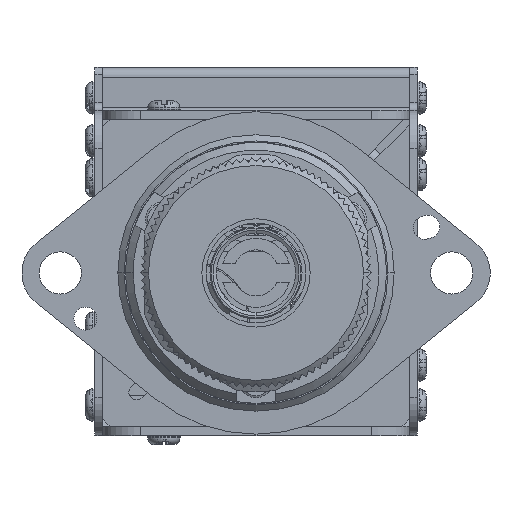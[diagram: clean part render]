
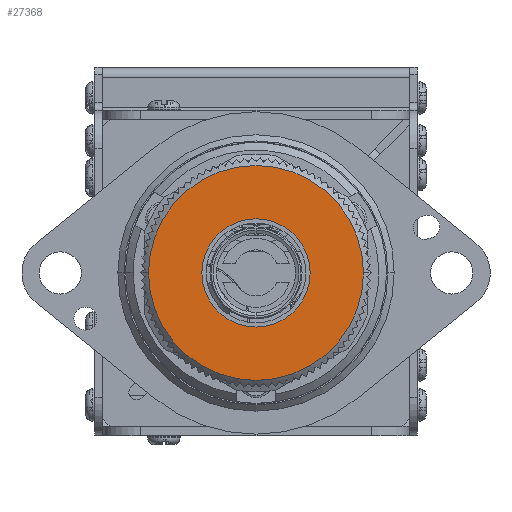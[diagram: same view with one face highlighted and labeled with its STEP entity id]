
A CAD part, front view. The second image highlights one B-rep face of the part: STEP entity #27368.
In plain terms, the highlighted planar face has unit normal (0, -1, 0).
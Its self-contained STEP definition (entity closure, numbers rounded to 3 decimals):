
#1586 = DIRECTION ( 'NONE',  ( 1., 0., 0. ) ) ;
#2747 = DIRECTION ( 'NONE',  ( -1., 0., 0. ) ) ;
#3943 = PLANE ( 'NONE',  #3976 ) ;
#3976 = AXIS2_PLACEMENT_3D ( 'NONE', #10928, #17694, #31432 ) ;
#4468 = ORIENTED_EDGE ( 'NONE', *, *, #32203, .T. ) ;
#4966 = DIRECTION ( 'NONE',  ( 0., -1., 0. ) ) ;
#5480 = DIRECTION ( 'NONE',  ( 0., -1., 0. ) ) ;
#6275 = DIRECTION ( 'NONE',  ( 0., -1., 0. ) ) ;
#7340 = FACE_OUTER_BOUND ( 'NONE', #19807, .T. ) ;
#7892 = CARTESIAN_POINT ( 'NONE',  ( -9.018, -73.576, 0. ) ) ;
#8959 = VERTEX_POINT ( 'NONE', #33232 ) ;
#10928 = CARTESIAN_POINT ( 'NONE',  ( -1.968, -73.576, 15. ) ) ;
#11913 = VERTEX_POINT ( 'NONE', #22285 ) ;
#13005 = DIRECTION ( 'NONE',  ( 1., 0., 0. ) ) ;
#13367 = AXIS2_PLACEMENT_3D ( 'NONE', #22078, #4966, #1586 ) ;
#14428 = CIRCLE ( 'NONE', #32443, 14. ) ;
#15809 = VERTEX_POINT ( 'NONE', #38026 ) ;
#17049 = CARTESIAN_POINT ( 'NONE',  ( -1.968, -73.576, 0. ) ) ;
#17137 = CIRCLE ( 'NONE', #32286, 14. ) ;
#17694 = DIRECTION ( 'NONE',  ( 0., 1., 0. ) ) ;
#19474 = DIRECTION ( 'NONE',  ( -1., 0., 0. ) ) ;
#19807 = EDGE_LOOP ( 'NONE', ( #35518, #4468 ) ) ;
#20974 = EDGE_CURVE ( 'NONE', #11913, #15809, #14428, .T. ) ;
#22078 = CARTESIAN_POINT ( 'NONE',  ( -1.968, -73.576, 0. ) ) ;
#22285 = CARTESIAN_POINT ( 'NONE',  ( -15.968, -73.576, 0. ) ) ;
#26419 = DIRECTION ( 'NONE',  ( 0., -1., 0. ) ) ;
#27368 = ADVANCED_FACE ( 'NONE', ( #7340, #34786 ), #3943, .F. ) ;
#29260 = EDGE_CURVE ( 'NONE', #31193, #8959, #42807, .T. ) ;
#29802 = CARTESIAN_POINT ( 'NONE',  ( -1.968, -73.576, 0. ) ) ;
#31193 = VERTEX_POINT ( 'NONE', #7892 ) ;
#31432 = DIRECTION ( 'NONE',  ( -1., 0., 0. ) ) ;
#32203 = EDGE_CURVE ( 'NONE', #15809, #11913, #17137, .T. ) ;
#32286 = AXIS2_PLACEMENT_3D ( 'NONE', #29802, #26419, #19474 ) ;
#32323 = ORIENTED_EDGE ( 'NONE', *, *, #43423, .F. ) ;
#32443 = AXIS2_PLACEMENT_3D ( 'NONE', #33191, #5480, #2747 ) ;
#33056 = ORIENTED_EDGE ( 'NONE', *, *, #29260, .F. ) ;
#33191 = CARTESIAN_POINT ( 'NONE',  ( -1.968, -73.576, 0. ) ) ;
#33232 = CARTESIAN_POINT ( 'NONE',  ( 5.082, -73.576, 0. ) ) ;
#34786 = FACE_BOUND ( 'NONE', #36802, .T. ) ;
#35518 = ORIENTED_EDGE ( 'NONE', *, *, #20974, .T. ) ;
#36802 = EDGE_LOOP ( 'NONE', ( #32323, #33056 ) ) ;
#37381 = CIRCLE ( 'NONE', #44532, 7.05 ) ;
#38026 = CARTESIAN_POINT ( 'NONE',  ( 12.032, -73.576, 0. ) ) ;
#42807 = CIRCLE ( 'NONE', #13367, 7.05 ) ;
#43423 = EDGE_CURVE ( 'NONE', #8959, #31193, #37381, .T. ) ;
#44532 = AXIS2_PLACEMENT_3D ( 'NONE', #17049, #6275, #13005 ) ;
